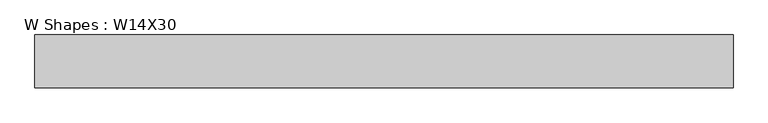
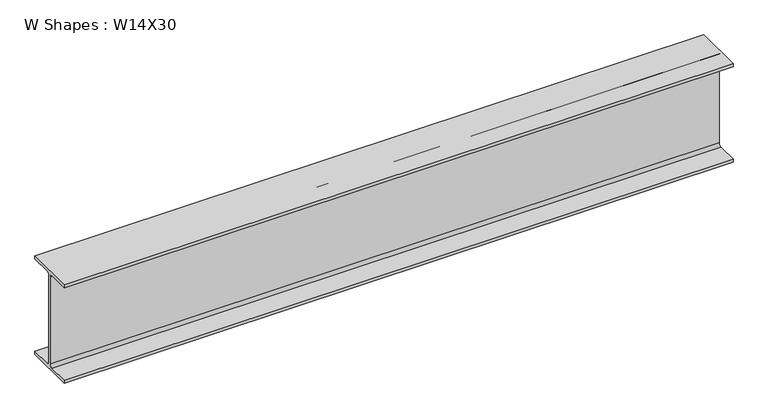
"""IFC4 building model written with IfcOpenShell, lengths in millimetres: beam geometry, W Shapes : W14X30."""

from ifc_helpers import new_model, si_unit, point, frame, frame_2d, origin, place, context, project, spatial, polyline, circle_curve, trimmed, segment, composite_curve, outline, extrude, source, transform, mapped, element, save


def w_shapes_w14x30_237460b9(model_context):
    return source(origin(), model_context, "Body", "SweptSolid", [
        extrude(outline(composite_curve([segment(polyline([(85.471, -165.481), (85.471, -175.26), (-85.471, -175.26), (-85.471, -165.481), (-13.589, -165.481)]), True, "CONTINUOUS"), segment(trimmed(circle_curve(frame_2d((-13.589, -155.321)), 10.16), [point((-13.589, -165.481))], [point((-3.429, -155.321))], True, "CARTESIAN"), True, "CONTINUOUS"), segment(polyline([(-3.429, -155.321), (-3.429, 155.321)]), True, "CONTINUOUS"), segment(trimmed(circle_curve(frame_2d((-13.589, 155.321)), 10.16), [point((-3.429, 155.321))], [point((-13.589, 165.481))], True, "CARTESIAN"), True, "CONTINUOUS"), segment(polyline([(-13.589, 165.481), (-85.471, 165.481), (-85.471, 175.26), (85.471, 175.26), (85.471, 165.481), (13.589, 165.481)]), True, "CONTINUOUS"), segment(trimmed(circle_curve(frame_2d((13.589, 155.321)), 10.16), [point((13.589, 165.481))], [point((3.429, 155.321))], True, "CARTESIAN"), True, "CONTINUOUS"), segment(polyline([(3.429, 155.321), (3.429, -155.321)]), True, "CONTINUOUS"), segment(trimmed(circle_curve(frame_2d((13.589, -155.321)), 10.16), [point((3.429, -155.321))], [point((13.589, -165.481))], True, "CARTESIAN"), True, "CONTINUOUS"), segment(polyline([(13.589, -165.481), (85.471, -165.481)]), True, "CONTINUOUS")], self_intersect=False)), frame((-1193.5315017, 0.0, 0.0), z_axis=(1.0, 0.0, 0.0), x_axis=(0.0, 1.0, 0.0)), (0.0, 0.0, 1.0), 2261.1462138),
    ])


if __name__ == "__main__":
    model = new_model("IFC4")
    model_context = context("Model", 3, world=origin())
    ifc_project = project(units=[si_unit("LENGTHUNIT", "METRE", prefix="MILLI")], contexts=[model_context])
    site = spatial("IfcSite", under=ifc_project)
    building = spatial("IfcBuilding", under=site)
    placement = place(None, origin())
    w_shapes_w14x30_shape = w_shapes_w14x30_237460b9(model_context)
    element("IfcBeam", 1, ObjectType="W Shapes : W14X30", at=placement, inside=building, context=model_context, shape_type="MappedRepresentation", body=[
        mapped(w_shapes_w14x30_shape, transform((0.0, 0.0, 0.0), x_axis=(1.0, 0.0, 0.0), y_axis=(0.0, 1.0, 0.0), z_axis=(0.0, 0.0, 1.0))),
    ])
    save(model, "model.ifc")
